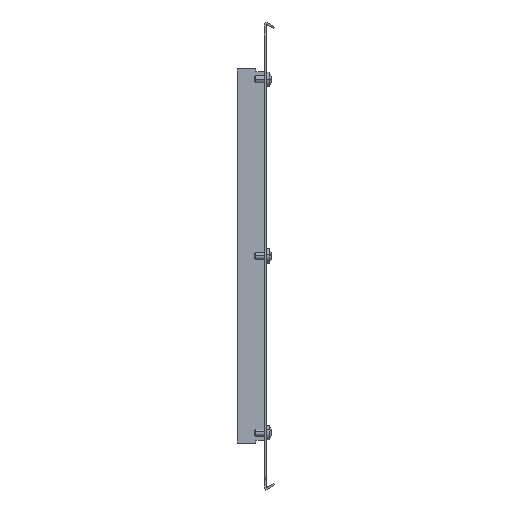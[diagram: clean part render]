
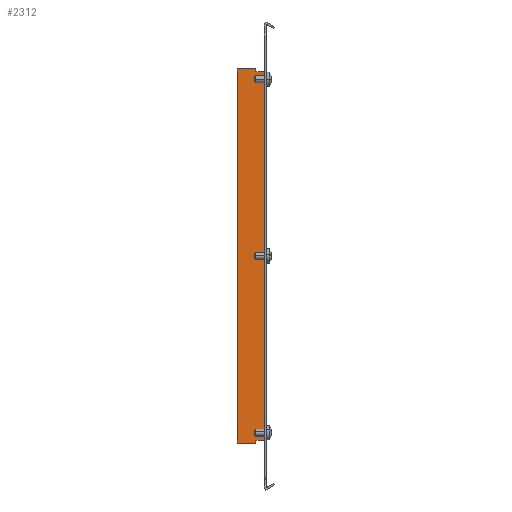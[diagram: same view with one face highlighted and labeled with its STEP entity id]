
A CAD part, left-side view. The second image highlights one B-rep face of the part: STEP entity #2312.
In plain terms, the highlighted planar face has unit normal (-1, 0, 0).
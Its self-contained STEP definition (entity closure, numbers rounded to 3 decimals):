
#24 = EDGE_CURVE ( 'NONE', #8239, #6190, #153, .T. ) ;
#118 = DIRECTION ( 'NONE',  ( 0., 0., 1. ) ) ;
#153 = LINE ( 'NONE', #2606, #9794 ) ;
#168 = CARTESIAN_POINT ( 'NONE',  ( 1.5, 5.75, 156.25 ) ) ;
#171 = EDGE_CURVE ( 'NONE', #8812, #8772, #2852, .T. ) ;
#281 = LINE ( 'NONE', #5720, #8455 ) ;
#339 = ORIENTED_EDGE ( 'NONE', *, *, #3294, .F. ) ;
#433 = ORIENTED_EDGE ( 'NONE', *, *, #8124, .F. ) ;
#479 = CARTESIAN_POINT ( 'NONE',  ( 1.5, -1.5, -156.25 ) ) ;
#555 = CARTESIAN_POINT ( 'NONE',  ( 1.5, 0., 156.25 ) ) ;
#577 = CARTESIAN_POINT ( 'NONE',  ( 1.5, 5.75, 159.25 ) ) ;
#874 = FACE_OUTER_BOUND ( 'NONE', #7872, .T. ) ;
#965 = ORIENTED_EDGE ( 'NONE', *, *, #9609, .F. ) ;
#1014 = VERTEX_POINT ( 'NONE', #3023 ) ;
#1023 = DIRECTION ( 'NONE',  ( 0., 0., 1. ) ) ;
#1157 = VECTOR ( 'NONE', #1023, 1000. ) ;
#1526 = EDGE_CURVE ( 'NONE', #8772, #9744, #9353, .T. ) ;
#1603 = LINE ( 'NONE', #5507, #4710 ) ;
#1646 = ORIENTED_EDGE ( 'NONE', *, *, #6140, .T. ) ;
#1814 = CARTESIAN_POINT ( 'NONE',  ( 1.5, 5.75, -159.25 ) ) ;
#1859 = DIRECTION ( 'NONE',  ( 0., -1., 0. ) ) ;
#2025 = LINE ( 'NONE', #9742, #6176 ) ;
#2049 = DIRECTION ( 'NONE',  ( 0., -1., 0. ) ) ;
#2312 = ADVANCED_FACE ( 'NONE', ( #874 ), #2358, .T. ) ;
#2358 = PLANE ( 'NONE',  #3504 ) ;
#2521 = CARTESIAN_POINT ( 'NONE',  ( 1.5, 21.5, 0. ) ) ;
#2606 = CARTESIAN_POINT ( 'NONE',  ( 1.5, 5.75, 156.75 ) ) ;
#2748 = CARTESIAN_POINT ( 'NONE',  ( 1.5, 21.5, 156.75 ) ) ;
#2760 = CARTESIAN_POINT ( 'NONE',  ( 1.5, 0., 159.25 ) ) ;
#2852 = LINE ( 'NONE', #555, #6697 ) ;
#3023 = CARTESIAN_POINT ( 'NONE',  ( 1.5, 21.5, -156.75 ) ) ;
#3091 = VERTEX_POINT ( 'NONE', #3196 ) ;
#3196 = CARTESIAN_POINT ( 'NONE',  ( 1.5, 21.5, 159.25 ) ) ;
#3274 = DIRECTION ( 'NONE',  ( -1., 0., 0. ) ) ;
#3294 = EDGE_CURVE ( 'NONE', #1014, #6996, #4059, .T. ) ;
#3373 = CARTESIAN_POINT ( 'NONE',  ( 1.5, -1.5, 156.25 ) ) ;
#3393 = ORIENTED_EDGE ( 'NONE', *, *, #8775, .T. ) ;
#3504 = AXIS2_PLACEMENT_3D ( 'NONE', #9367, #3274, #7734 ) ;
#3706 = VERTEX_POINT ( 'NONE', #4333 ) ;
#3788 = DIRECTION ( 'NONE',  ( 0., 1., 0. ) ) ;
#4006 = CARTESIAN_POINT ( 'NONE',  ( 1.5, 21.5, -159.25 ) ) ;
#4059 = LINE ( 'NONE', #8010, #8194 ) ;
#4148 = DIRECTION ( 'NONE',  ( 0., 0., -1. ) ) ;
#4294 = LINE ( 'NONE', #6380, #6371 ) ;
#4333 = CARTESIAN_POINT ( 'NONE',  ( 1.5, 5.75, -156.75 ) ) ;
#4553 = CARTESIAN_POINT ( 'NONE',  ( 1.5, 5.75, 156.75 ) ) ;
#4580 = CARTESIAN_POINT ( 'NONE',  ( 1.5, -1.5, 0. ) ) ;
#4710 = VECTOR ( 'NONE', #3788, 1000. ) ;
#4853 = CARTESIAN_POINT ( 'NONE',  ( 1.5, 5.75, 156.75 ) ) ;
#4902 = LINE ( 'NONE', #4853, #9073 ) ;
#4904 = CARTESIAN_POINT ( 'NONE',  ( 1.5, 21.5, -156.75 ) ) ;
#4907 = DIRECTION ( 'NONE',  ( 0., 0., -1. ) ) ;
#4913 = VECTOR ( 'NONE', #7669, 1000. ) ;
#5007 = CARTESIAN_POINT ( 'NONE',  ( 1.5, 5.75, -156.25 ) ) ;
#5045 = VERTEX_POINT ( 'NONE', #168 ) ;
#5089 = EDGE_CURVE ( 'NONE', #6996, #3091, #8762, .T. ) ;
#5094 = VERTEX_POINT ( 'NONE', #1814 ) ;
#5096 = EDGE_CURVE ( 'NONE', #8239, #5045, #4902, .T. ) ;
#5182 = DIRECTION ( 'NONE',  ( 0., -1., 0. ) ) ;
#5507 = CARTESIAN_POINT ( 'NONE',  ( 1.5, 0., -159.25 ) ) ;
#5546 = LINE ( 'NONE', #8647, #1157 ) ;
#5720 = CARTESIAN_POINT ( 'NONE',  ( 1.5, 21.5, -156.25 ) ) ;
#5944 = ORIENTED_EDGE ( 'NONE', *, *, #10023, .T. ) ;
#6054 = ORIENTED_EDGE ( 'NONE', *, *, #24, .T. ) ;
#6101 = VERTEX_POINT ( 'NONE', #5007 ) ;
#6140 = EDGE_CURVE ( 'NONE', #1014, #8930, #6377, .T. ) ;
#6176 = VECTOR ( 'NONE', #7493, 1000. ) ;
#6190 = VERTEX_POINT ( 'NONE', #577 ) ;
#6371 = VECTOR ( 'NONE', #4907, 1000. ) ;
#6377 = LINE ( 'NONE', #4904, #7906 ) ;
#6380 = CARTESIAN_POINT ( 'NONE',  ( 1.5, 5.75, 0. ) ) ;
#6391 = DIRECTION ( 'NONE',  ( 0., 0., 1. ) ) ;
#6475 = DIRECTION ( 'NONE',  ( 0., 0., -1. ) ) ;
#6555 = ORIENTED_EDGE ( 'NONE', *, *, #171, .F. ) ;
#6556 = EDGE_CURVE ( 'NONE', #3091, #6190, #7465, .T. ) ;
#6697 = VECTOR ( 'NONE', #5182, 1000. ) ;
#6996 = VERTEX_POINT ( 'NONE', #2748 ) ;
#7148 = ORIENTED_EDGE ( 'NONE', *, *, #6556, .F. ) ;
#7465 = LINE ( 'NONE', #2760, #9555 ) ;
#7493 = DIRECTION ( 'NONE',  ( 0., -1., 0. ) ) ;
#7524 = ORIENTED_EDGE ( 'NONE', *, *, #9545, .F. ) ;
#7669 = DIRECTION ( 'NONE',  ( 0., 0., -1. ) ) ;
#7734 = DIRECTION ( 'NONE',  ( 0., 0., 1. ) ) ;
#7872 = EDGE_LOOP ( 'NONE', ( #7524, #5944, #9090, #6555, #433, #9912, #6054, #7148, #7885, #339, #1646, #8256, #965, #3393 ) ) ;
#7885 = ORIENTED_EDGE ( 'NONE', *, *, #5089, .F. ) ;
#7906 = VECTOR ( 'NONE', #4148, 1000. ) ;
#7933 = CARTESIAN_POINT ( 'NONE',  ( 1.5, -0.5, -156.25 ) ) ;
#8010 = CARTESIAN_POINT ( 'NONE',  ( 1.5, 21.5, 156.25 ) ) ;
#8091 = VECTOR ( 'NONE', #118, 1000. ) ;
#8124 = EDGE_CURVE ( 'NONE', #5045, #8812, #2025, .T. ) ;
#8194 = VECTOR ( 'NONE', #6391, 1000. ) ;
#8206 = EDGE_CURVE ( 'NONE', #5094, #8930, #1603, .T. ) ;
#8239 = VERTEX_POINT ( 'NONE', #4553 ) ;
#8256 = ORIENTED_EDGE ( 'NONE', *, *, #8206, .F. ) ;
#8455 = VECTOR ( 'NONE', #8769, 1000. ) ;
#8508 = CARTESIAN_POINT ( 'NONE',  ( 1.5, -0.5, -156.25 ) ) ;
#8647 = CARTESIAN_POINT ( 'NONE',  ( 1.5, 5.75, -156.75 ) ) ;
#8755 = LINE ( 'NONE', #7933, #9274 ) ;
#8762 = LINE ( 'NONE', #2521, #8091 ) ;
#8769 = DIRECTION ( 'NONE',  ( 0., 1., 0. ) ) ;
#8772 = VERTEX_POINT ( 'NONE', #3373 ) ;
#8775 = EDGE_CURVE ( 'NONE', #3706, #6101, #5546, .T. ) ;
#8812 = VERTEX_POINT ( 'NONE', #9960 ) ;
#8930 = VERTEX_POINT ( 'NONE', #4006 ) ;
#9073 = VECTOR ( 'NONE', #6475, 1000. ) ;
#9090 = ORIENTED_EDGE ( 'NONE', *, *, #1526, .F. ) ;
#9274 = VECTOR ( 'NONE', #1859, 1000. ) ;
#9353 = LINE ( 'NONE', #4580, #4913 ) ;
#9367 = CARTESIAN_POINT ( 'NONE',  ( 1.5, 0., 0. ) ) ;
#9497 = VERTEX_POINT ( 'NONE', #8508 ) ;
#9545 = EDGE_CURVE ( 'NONE', #9497, #6101, #281, .T. ) ;
#9555 = VECTOR ( 'NONE', #2049, 1000. ) ;
#9609 = EDGE_CURVE ( 'NONE', #3706, #5094, #4294, .T. ) ;
#9618 = DIRECTION ( 'NONE',  ( 0., 0., 1. ) ) ;
#9742 = CARTESIAN_POINT ( 'NONE',  ( 1.5, -1.5, 156.25 ) ) ;
#9744 = VERTEX_POINT ( 'NONE', #479 ) ;
#9794 = VECTOR ( 'NONE', #9618, 1000. ) ;
#9912 = ORIENTED_EDGE ( 'NONE', *, *, #5096, .F. ) ;
#9960 = CARTESIAN_POINT ( 'NONE',  ( 1.5, -0.5, 156.25 ) ) ;
#10023 = EDGE_CURVE ( 'NONE', #9497, #9744, #8755, .T. ) ;
